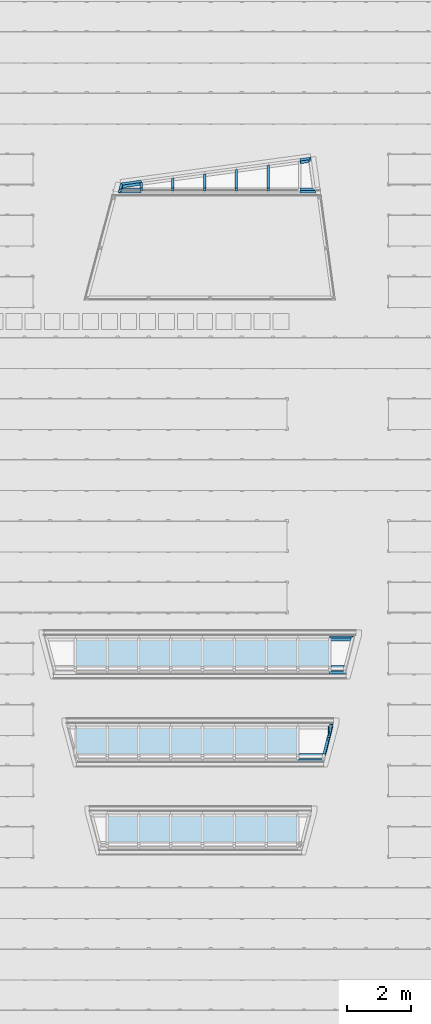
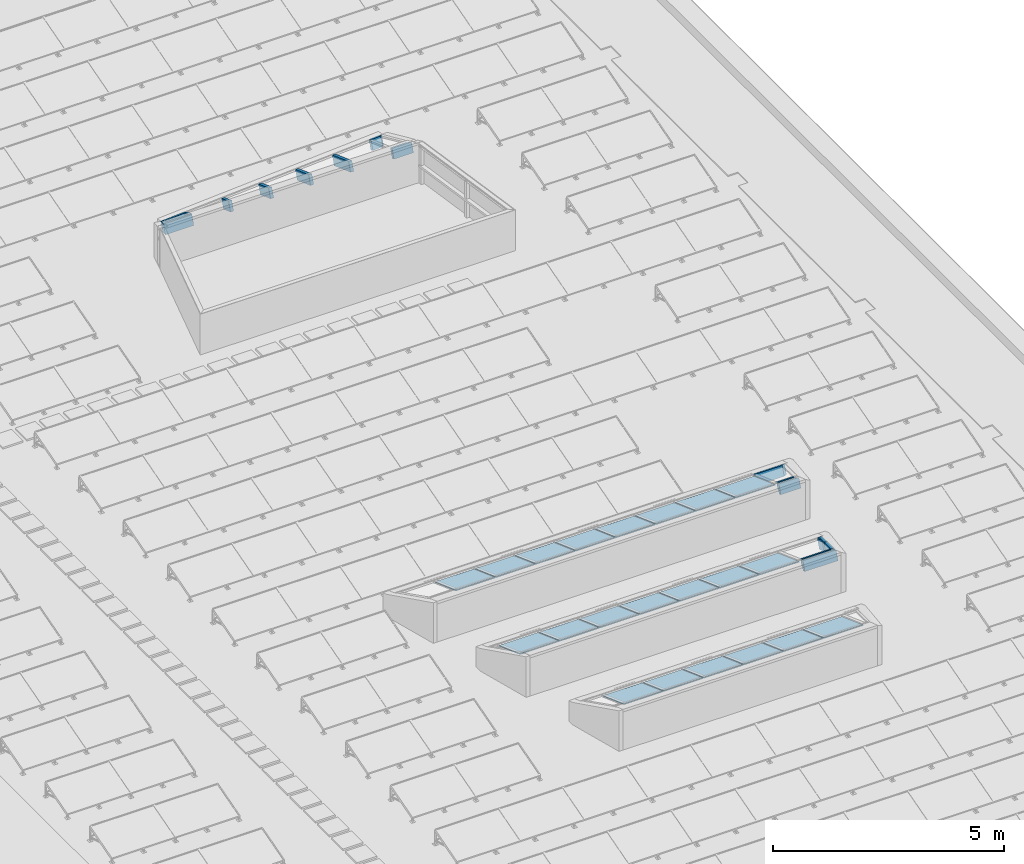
# One storey, part 4 of 20: 21 plates, 19 members, 4 elements without a shape of their own.
"""IFC2X3 building model written with IfcOpenShell, lengths in millimetres."""

from ifc_helpers import new_model, entity, si_unit, converted_unit, derived_unit, money_unit, direction, frame, origin_with_axes, place, context, subcontext, project, spatial, faceted_brep, source, transform, mapped, material, type_object, type_shapes, element, aggregate, save


model = new_model("IFC2X3")

# Units and contexts
model_context = context("Model", 3, precision=0.01, world=origin_with_axes(), true_north=direction((0.0, 1.0)))
plan_context = context("Plan", 3, precision=0.01, world=origin_with_axes(), true_north=direction((0.0, 1.0)))
body_context = subcontext(model_context, "Body", "Model", "MODEL_VIEW")
ifc_project = project(units=[si_unit("LENGTHUNIT", "METRE", prefix="MILLI"), si_unit("AREAUNIT", "SQUARE_METRE"), si_unit("VOLUMEUNIT", "CUBIC_METRE"), converted_unit("PLANEANGLEUNIT", "DEGREE", entity("IfcPlaneAngleMeasure", 0.0174532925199), si_unit("PLANEANGLEUNIT", "RADIAN"), dimensions=[0, 0, 0, 0, 0, 0, 0]), si_unit("SOLIDANGLEUNIT", "STERADIAN"), money_unit("EUR"), converted_unit("TIMEUNIT", "Year", entity("IfcTimeMeasure", 31556926.0), si_unit("TIMEUNIT", "SECOND"), dimensions=[0, 0, 1, 0, 0, 0, 0]), si_unit("MASSUNIT", "GRAM", prefix="KILO"), si_unit("THERMODYNAMICTEMPERATUREUNIT", "DEGREE_CELSIUS"), si_unit("LUMINOUSINTENSITYUNIT", "LUMEN"), si_unit("ENERGYUNIT", "JOULE", prefix="MEGA"), derived_unit("THERMALCONDUCTANCEUNIT", [(si_unit("POWERUNIT", "WATT"), 1), (si_unit("LENGTHUNIT", "METRE"), -1), (si_unit("THERMODYNAMICTEMPERATUREUNIT", "KELVIN"), -1)]), derived_unit("SPECIFICHEATCAPACITYUNIT", [(si_unit("ENERGYUNIT", "JOULE"), 1), (si_unit("MASSUNIT", "GRAM", prefix="KILO"), -1), (si_unit("THERMODYNAMICTEMPERATUREUNIT", "KELVIN"), -1)]), derived_unit("MASSDENSITYUNIT", [(si_unit("MASSUNIT", "GRAM", prefix="KILO"), 1), (si_unit("VOLUMEUNIT", "CUBIC_METRE"), -1)])], contexts=[model_context, plan_context])

# Site, building, storey
site_placement = place(None, origin_with_axes())
site = spatial("IfcSite", under=ifc_project, at=site_placement, Name="Site", CompositionType="ELEMENT")
building_placement = place(site_placement, origin_with_axes())
building = spatial("IfcBuilding", under=site, at=building_placement, Name="Naam gebouw", CompositionType="ELEMENT")
storey_placement = place(building_placement, frame((0.0, 0.0, 7920.0), z_axis=(0.0, 0.0, 1.0), x_axis=(1.0, 0.0, 0.0)))
storey = spatial("IfcBuildingStorey", under=building, at=storey_placement, Name="2e verdieping", CompositionType="ELEMENT", Elevation=7920.0)

# Curtain wall, members
curtain_wall_type = type_object("IfcCurtainWallType", Name="Curtain Wall Type", PredefinedType="NOTDEFINED")
curtain_wall_1_placement = place(storey_placement, frame((19106.1234546, 39361.8774302, 819.822664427), z_axis=(0.0, 0.0, 1.0), x_axis=(1.0, 0.0, 0.0)))
curtain_wall_1 = element("IfcCurtainWall", 1, at=curtain_wall_1_placement, inside=storey, type_object=curtain_wall_type, Name="21_Vliesgevel_Wand-x")
ifc_material_1 = material(Name="Metaal - Staal AFW")
member_type_1 = type_object("IfcMemberType", Name="Boundary Frame 80 x 250", PredefinedType="MULLION")
member_1_placement = place(curtain_wall_1_placement, frame((-4208.50778447, -399.781761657, 382.086908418), z_axis=(0.244168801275, 0.911250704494, -0.33166813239), x_axis=(0.969732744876, -0.229443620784, 0.0835106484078)))
member_1 = element("IfcMember", 2, at=member_1_placement, type_object=member_type_1, material=ifc_material_1, Name="_Vliesgevel - kader_Kader-x", ObjectType="MULLION", context=body_context, shape_type="Brep", body=[
    faceted_brep([(80.0, -50.0, 102.640139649), (80.0, 200.0, 102.640139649), (80.0, 200.0, 207.793038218), (80.0, -50.0, 207.793038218), (0.0, -50.0, 0.0), (0.0, 200.0, 0.0), (0.0, 200.0, 261.414802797), (0.0, -50.0, 261.414802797)], [[[0, 1, 2, 3]], [[1, 0, 4, 5]], [[1, 5, 6, 2]], [[2, 6, 7, 3]], [[4, 0, 3, 7]], [[5, 4, 7, 6]]]),
])
member_2_placement = place(curtain_wall_1_placement, frame((-3500.0, -399.78176001, 382.086907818), z_axis=(-1.0, -2.32413618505e-09, 8.4591577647e-10), x_axis=(-2.4732938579e-09, 0.939692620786, -0.342020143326)))
member_2 = element("IfcMember", 3, at=member_2_placement, type_object=member_type_1, material=ifc_material_1, Name="_Vliesgevel - kader_Kader-x", ObjectType="MULLION", context=body_context, shape_type="Brep", body=[
    faceted_brep([(80.0, 200.0, -4.30823376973e-07), (80.0000001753, 200.000000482, 605.867644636), (80.0000001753, -49.9999995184, 605.867644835), (80.0, -50.0, -2.32100560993e-07), (0.0, 200.0, -4.07679223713e-07), (2.04984473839e-07, 200.000000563, 708.507784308), (2.04984473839e-07, -49.9999994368, 708.507784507), (0.0, -50.0, -2.08952855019e-07)], [[[0, 1, 2, 3]], [[4, 5, 1, 0]], [[1, 5, 6, 2]], [[3, 2, 6, 7]], [[0, 3, 7, 4]], [[7, 6, 5, 4]]]),
])
member_3_placement = place(curtain_wall_1_placement, frame((1989.59808319, -399.781747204, 382.086903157), z_axis=(-1.0, -3.33432482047e-08, 1.21359525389e-08), x_axis=(-3.54831445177e-08, 0.939692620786, -0.342020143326)))
member_3 = element("IfcMember", 4, at=member_3_placement, type_object=member_type_1, material=ifc_material_1, Name="_Vliesgevel - kader_Kader-x", ObjectType="MULLION", context=body_context, shape_type="Brep", body=[
    faceted_brep([(80.000000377, -49.9999989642, 90.8269551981), (80.000000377, 200.000001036, 90.8269523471), (80.0000020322, 200.000005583, 489.598081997), (80.0000020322, -49.9999944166, 489.598084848), (0.0, -50.0, 5.7020344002e-07), (0.0, 200.0, -2.28081731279e-06), (2.03219485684e-06, 200.000005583, 489.598082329), (2.03219485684e-06, -49.9999944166, 489.59808518)], [[[0, 1, 2, 3]], [[1, 0, 4, 5]], [[1, 5, 6, 2]], [[2, 6, 7, 3]], [[4, 0, 3, 7]], [[5, 4, 7, 6]]]),
])
member_4_placement = place(curtain_wall_1_placement, frame((-4144.67844543, -161.567338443, 295.383948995), z_axis=(0.989772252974, 0.134053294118, -0.0487914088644), x_axis=(0.142656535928, -0.930081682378, 0.338522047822)))
member_4 = element("IfcMember", 5, at=member_4_placement, type_object=member_type_1, material=ifc_material_1, Name="_Vliesgevel - kader_Kader-x", ObjectType="MULLION", context=body_context, shape_type="Brep", body=[
    faceted_brep([(80.0, -50.0, 53.6217645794), (80.0, 200.0, 53.6217645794), (80.0, 200.0, 651.340188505), (80.0, -50.0, 651.340188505), (0.0, -50.0, 0.0), (0.0, 200.0, 0.0), (0.0, 200.0, 651.340188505), (0.0, -50.0, 651.340188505)], [[[0, 1, 2, 3]], [[1, 0, 4, 5]], [[1, 5, 6, 2]], [[2, 6, 7, 3]], [[4, 0, 3, 7]], [[5, 4, 7, 6]]]),
])
member_5_placement = place(curtain_wall_1_placement, frame((1500.0, 602.939604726, 17.1261777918), z_axis=(0.989772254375, 0.134053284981, -0.0487914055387), x_axis=(0.142656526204, -0.930081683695, 0.338522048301)))
member_5 = element("IfcMember", 6, at=member_5_placement, type_object=member_type_1, material=ifc_material_1, Name="_Vliesgevel - kader_Kader-x", ObjectType="MULLION", context=body_context, shape_type="Brep", body=[
    faceted_brep([(80.0, 200.0, -2.8269937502e-06), (80.0, 200.0, 269.672609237), (80.0, -50.0, 269.672609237), (80.0, -50.0, -2.8269937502e-06), (0.0, 200.0, -2.82699019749e-06), (0.0, 200.0, 351.008080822), (0.0, -50.0, 351.008080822), (0.0, -50.0, -2.82699019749e-06)], [[[0, 1, 2, 3]], [[4, 5, 1, 0]], [[1, 5, 6, 2]], [[3, 2, 6, 7]], [[0, 3, 7, 4]], [[7, 6, 5, 4]]]),
])

curtain_wall_2_placement = place(storey_placement, frame((13117.0960946, 24464.1241022, 780.165825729), z_axis=(0.0, 0.0, 1.0), x_axis=(1.0, 0.0, 0.0)))
curtain_wall_2 = element("IfcCurtainWall", 7, at=curtain_wall_2_placement, inside=storey, type_object=curtain_wall_type, Name="21_Vliesgevel_Wand-x")
member_6_placement = place(curtain_wall_2_placement, frame((8922.63339509, -628.292672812, 404.355362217), z_axis=(-1.0, 9.97992120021e-08, -3.63239412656e-08), x_axis=(1.06204102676e-07, 0.939692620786, -0.342020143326)))
member_6 = element("IfcMember", 8, at=member_6_placement, type_object=member_type_1, material=ifc_material_1, Name="_Vliesgevel - kader_Kader-x", ObjectType="MULLION", context=body_context, shape_type="Brep", body=[
    faceted_brep([(79.9999992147, -50.0000021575, 63.2094891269), (79.9999992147, 199.999997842, 63.2094976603), (79.9999937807, 199.999982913, 500.604674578), (79.9999937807, -50.0000170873, 500.604666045), (0.0, -50.0, -1.70666680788e-06), (0.0, 200.0, 6.82667078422e-06), (-6.2192739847e-06, 199.999982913, 500.604673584), (-6.21927753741e-06, -50.0000170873, 500.604665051)], [[[0, 1, 2, 3]], [[1, 0, 4, 5]], [[1, 5, 6, 2]], [[2, 6, 7, 3]], [[4, 0, 3, 7]], [[5, 4, 7, 6]]]),
])
member_7_placement = place(curtain_wall_2_placement, frame((8422.02873258, 482.664564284, -3.62852503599e-06), z_axis=(1.0, 0.0, 0.0), x_axis=(0.0, -0.939692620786, 0.342020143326)))
member_7 = element("IfcMember", 9, at=member_7_placement, type_object=member_type_1, material=ifc_material_1, Name="_Vliesgevel - kader_Kader-x", ObjectType="MULLION", context=body_context, shape_type="Brep", body=[
    faceted_brep([(80.0, 200.0, -1.1346834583e-06), (80.0, 200.0, 680.443326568), (80.0, -50.0, 680.443326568), (80.0, -50.0, -1.1346834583e-06), (0.0, 200.0, -1.1346834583e-06), (0.0, 200.0, 781.693898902), (0.0, -50.0, 781.693898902), (0.0, -50.0, -1.1346834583e-06)], [[[0, 1, 2, 3]], [[4, 5, 1, 0]], [[1, 5, 6, 2]], [[3, 2, 6, 7]], [[0, 3, 7, 4]], [[7, 6, 5, 4]]]),
])

curtain_wall_3_placement = place(storey_placement, frame((20039.1248272, 21694.0652432, 780.165825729), z_axis=(0.0, 0.0, 1.0), x_axis=(1.0, 0.0, 0.0)))
curtain_wall_3 = element("IfcCurtainWall", 10, at=curtain_wall_3_placement, inside=storey, type_object=curtain_wall_type, Name="21_Vliesgevel_Wand-x")
member_8_placement = place(curtain_wall_3_placement, frame((1330.20373771, -628.292633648, 404.355346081), z_axis=(-1.0, 6.77914371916e-09, -2.46740620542e-09), x_axis=(7.21421395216e-09, 0.939692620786, -0.342020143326)))
member_8 = element("IfcMember", 11, at=member_8_placement, type_object=member_type_1, material=ifc_material_1, Name="_Vliesgevel - kader_Kader-x", ObjectType="MULLION", context=body_context, shape_type="Brep", body=[
    faceted_brep([(79.9999999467, -50.0000001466, 63.2095078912), (79.9999999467, 199.999999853, 63.2095084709), (79.9999992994, 199.999998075, 830.20373853), (79.9999992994, -50.0000019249, 830.203737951), (0.0, -50.0, -1.15928600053e-07), (0.0, 200.0, 4.63725058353e-07), (-7.00616453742e-07, 199.999998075, 830.203738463), (-7.00616453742e-07, -50.0000019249, 830.203737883)], [[[0, 1, 2, 3]], [[1, 0, 4, 5]], [[1, 5, 6, 2]], [[2, 6, 7, 3]], [[4, 0, 3, 7]], [[5, 4, 7, 6]]]),
])
member_9_placement = place(curtain_wall_3_placement, frame((1500.0, 42.7979624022, 160.098344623), z_axis=(-0.231308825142, -0.914208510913, 0.332744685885), x_axis=(-0.972880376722, 0.217359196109, -0.0791122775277)))
member_9 = element("IfcMember", 12, at=member_9_placement, type_object=member_type_1, material=ifc_material_1, Name="_Vliesgevel - kader_Kader-x", ObjectType="MULLION", context=body_context, shape_type="Brep", body=[
    faceted_brep([(80.0, 200.0, -1.12280673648e-05), (80.0, 200.0, 574.773199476), (80.0, -50.0, 574.773199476), (80.0, -50.0, -1.12280709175e-05), (0.0, 200.0, -1.12280709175e-05), (0.0, 200.0, 574.773199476), (0.0, -50.0, 574.773199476), (0.0, -50.0, -1.12280673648e-05)], [[[0, 1, 2, 3]], [[4, 5, 1, 0]], [[1, 5, 6, 2]], [[3, 2, 6, 7]], [[0, 3, 7, 4]], [[7, 6, 5, 4]]]),
])
member_10_placement = place(curtain_wall_3_placement, frame((1611.29288076, 482.664559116, -3.62852503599e-06), z_axis=(-0.231308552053, -0.914208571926, 0.332744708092), x_axis=(-0.972880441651, 0.217358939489, -0.0791121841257)))
member_10 = element("IfcMember", 13, at=member_10_placement, type_object=member_type_1, material=ifc_material_1, Name="_Vliesgevel - kader_Kader-x", ObjectType="MULLION", context=body_context, shape_type="Brep", body=[
    faceted_brep([(80.0, -50.0, 101.250554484), (80.0, 200.0, 101.250554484), (80.0, 200.0, 481.144697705), (80.0, -50.0, 481.144697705), (0.0, -50.0, 0.0), (0.0, 200.0, 0.0), (0.0, 200.0, 481.144697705), (0.0, -50.0, 481.144697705)], [[[0, 1, 2, 3]], [[1, 0, 4, 5]], [[1, 5, 6, 2]], [[2, 6, 7, 3]], [[4, 0, 3, 7]], [[5, 4, 7, 6]]]),
])
member_11_placement = place(curtain_wall_3_placement, frame((1500.0, 482.664559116, -3.62852503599e-06), z_axis=(1.0, 0.0, 0.0), x_axis=(0.0, -0.939692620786, 0.342020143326)))
member_11 = element("IfcMember", 14, at=member_11_placement, type_object=member_type_1, material=ifc_material_1, Name="_Vliesgevel - kader_Kader-x", ObjectType="MULLION", context=body_context, shape_type="Brep", body=[
    faceted_brep([(80.0, 200.0, -1.1346834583e-06), (80.0, 200.0, 10.0423262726), (80.0, -50.0, 10.0423262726), (80.0, -50.0, -1.1346834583e-06), (0.0, 200.0, -1.1346834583e-06), (0.0, 200.0, 111.292880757), (0.0, -50.0, 111.292880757), (0.0, -50.0, -1.1346834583e-06)], [[[0, 1, 2, 3]], [[4, 5, 1, 0]], [[1, 5, 6, 2]], [[3, 2, 6, 7]], [[0, 3, 7, 4]], [[7, 6, 5, 4]]]),
])

# Member
member_type_2 = type_object("IfcMemberType", Name="Mullion Frame 80 x 250", PredefinedType="MULLION")
member_12_placement = place(curtain_wall_1_placement, frame((-3500.0, -74.2530406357, 263.604143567), z_axis=(0.0, -0.939692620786, 0.342020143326), x_axis=(-1.0, 0.0, 0.0)))
member_12 = element("IfcMember", 15, at=member_12_placement, type_object=member_type_2, material=ifc_material_1, Name="_Vliesgevel - kader_Kader-x", ObjectType="MULLION", context=body_context, shape_type="Brep", body=[
    faceted_brep([(40.0, -50.0, 86.5919009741), (40.0, 200.0, 86.5919009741), (40.0, 200.0, 266.420426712), (40.0, -50.0, 266.420427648), (-40.0, -50.0, 75.0614483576), (-40.0, 200.0, 75.0614483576), (-40.0, 200.0, 266.420426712), (-40.0, -50.0, 266.420427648)], [[[0, 1, 2, 3]], [[1, 0, 4, 5]], [[1, 5, 6, 2]], [[2, 6, 7, 3]], [[4, 0, 3, 7]], [[5, 4, 7, 6]]]),
])

member_13_placement = place(curtain_wall_1_placement, frame((-2500.0, 61.1854748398, 214.308555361), z_axis=(0.0, -0.939692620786, 0.342020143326), x_axis=(-1.0, 0.0, 0.0)))
member_13 = element("IfcMember", 16, at=member_13_placement, type_object=member_type_2, material=ifc_material_1, Name="_Vliesgevel - kader_Kader-x", ObjectType="MULLION", context=body_context, shape_type="Brep", body=[
    faceted_brep([(40.0, -50.0, 86.5919009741), (40.0, 200.0, 86.5919009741), (40.0, 200.0, 410.551088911), (40.0, -50.0, 410.551088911), (-40.0, -50.0, 75.0614483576), (-40.0, 200.0, 75.0614483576), (-40.0, 200.0, 410.551088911), (-40.0, -50.0, 410.551088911)], [[[0, 1, 2, 3]], [[1, 0, 4, 5]], [[1, 5, 6, 2]], [[2, 6, 7, 3]], [[4, 0, 3, 7]], [[5, 4, 7, 6]]]),
])

member_14_placement = place(curtain_wall_1_placement, frame((-1500.0, 196.623990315, 165.012967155), z_axis=(0.0, -0.939692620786, 0.342020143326), x_axis=(-1.0, 0.0, 0.0)))
member_14 = element("IfcMember", 17, at=member_14_placement, type_object=member_type_2, material=ifc_material_1, Name="_Vliesgevel - kader_Kader-x", ObjectType="MULLION", context=body_context, shape_type="Brep", body=[
    faceted_brep([(40.0, -50.0, 86.5919009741), (40.0, 200.0, 86.5919009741), (40.0, 200.0, 554.681746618), (40.0, -50.0, 554.681746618), (-40.0, -50.0, 75.0614483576), (-40.0, 200.0, 75.0614483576), (-40.0, 200.0, 554.681746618), (-40.0, -50.0, 554.681746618)], [[[0, 1, 2, 3]], [[1, 0, 4, 5]], [[1, 5, 6, 2]], [[2, 6, 7, 3]], [[4, 0, 3, 7]], [[5, 4, 7, 6]]]),
])

member_15_placement = place(curtain_wall_1_placement, frame((-500.0, 332.062505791, 115.717378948), z_axis=(0.0, -0.939692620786, 0.342020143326), x_axis=(-1.0, 0.0, 0.0)))
member_15 = element("IfcMember", 18, at=member_15_placement, type_object=member_type_2, material=ifc_material_1, Name="_Vliesgevel - kader_Kader-x", ObjectType="MULLION", context=body_context, shape_type="Brep", body=[
    faceted_brep([(40.0, -50.0, 86.5919009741), (40.0, 200.0, 86.5919009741), (40.0, 200.0, 698.812404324), (40.0, -50.0, 698.812404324), (-40.0, -50.0, 75.0614483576), (-40.0, 200.0, 75.0614483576), (-40.0, 200.0, 698.812404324), (-40.0, -50.0, 698.812404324)], [[[0, 1, 2, 3]], [[1, 0, 4, 5]], [[1, 5, 6, 2]], [[2, 6, 7, 3]], [[4, 0, 3, 7]], [[5, 4, 7, 6]]]),
])

member_16_placement = place(curtain_wall_1_placement, frame((500.0, 467.501021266, 66.4217907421), z_axis=(0.0, -0.939692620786, 0.342020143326), x_axis=(-1.0, 0.0, 0.0)))
member_16 = element("IfcMember", 19, at=member_16_placement, type_object=member_type_2, material=ifc_material_1, Name="_Vliesgevel - kader_Kader-x", ObjectType="MULLION", context=body_context, shape_type="Brep", body=[
    faceted_brep([(40.0, -50.0, 86.5919046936), (40.0, 200.0, 86.5919046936), (40.0, 200.0, 842.94306203), (40.0, -50.0, 842.94306203), (-40.0, -50.0, 75.0614462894), (-40.0, 200.0, 75.0614462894), (-40.0, 200.0, 842.94306203), (-40.0, -50.0, 842.94306203)], [[[0, 1, 2, 3]], [[1, 0, 4, 5]], [[1, 5, 6, 2]], [[2, 6, 7, 3]], [[4, 0, 3, 7]], [[5, 4, 7, 6]]]),
])

aggregate(curtain_wall_1, [member_1, member_2, member_12, member_13, member_14, member_15, member_16, member_3, member_4, member_5])

member_17_placement = place(curtain_wall_3_placement, frame((1500.0, 482.664559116, -3.62852503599e-06), z_axis=(0.0, -0.939692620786, 0.342020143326), x_axis=(-1.0, 0.0, 0.0)))
member_17 = element("IfcMember", 20, at=member_17_placement, type_object=member_type_2, material=ifc_material_1, Name="_Vliesgevel - kader_Kader-x", ObjectType="MULLION", context=body_context, shape_type="Brep", body=[
    faceted_brep([(40.0, -50.0, 79.9999985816), (40.0, 200.0, 80.0000056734), (40.0, 200.0, 290.47750272), (40.0, -50.0, 290.47750272), (-10.0424362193, -50.0, 79.9999985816), (-10.0424345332, 200.0, 80.0000056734)], [[[0, 1, 2, 3]], [[1, 0, 4, 5]], [[1, 5, 2]], [[5, 4, 3, 2]], [[4, 0, 3]]]),
])

member_type_3 = type_object("IfcMemberType", Name="Transom Frame 70 x 175", PredefinedType="MULLION")
member_18_placement = place(curtain_wall_2_placement, frame((8422.02873258, -482.664580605, 351.351071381), z_axis=(1.0, 0.0, 0.0), x_axis=(0.0, -0.939692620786, 0.342020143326)))
member_18 = element("IfcMember", 21, at=member_18_placement, type_object=member_type_3, material=ifc_material_1, Name="_Vliesgevel - kader_Kader-x", ObjectType="MULLION", context=body_context, shape_type="Brep", body=[
    faceted_brep([(35.0, -50.0, 40.0), (35.0, 125.0, 40.0), (35.0, 125.0, 446.899358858), (35.0, -50.0, 446.899358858), (-35.0, -50.0, 40.0), (-35.0, 125.0, 40.0), (-35.0, 125.0, 463.542319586), (-35.0, -50.0, 463.542319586)], [[[0, 1, 2, 3]], [[1, 0, 4, 5]], [[1, 5, 6, 2]], [[2, 6, 7, 3]], [[4, 0, 3, 7]], [[5, 4, 7, 6]]]),
])

member_19_placement = place(curtain_wall_3_placement, frame((500.0, -482.664585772, 351.351071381), z_axis=(1.0, 0.0, 0.0), x_axis=(0.0, -0.939692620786, 0.342020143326)))
member_19 = element("IfcMember", 22, at=member_19_placement, type_object=member_type_3, material=ifc_material_1, Name="_Vliesgevel - kader_Kader-x", ObjectType="MULLION", context=body_context, shape_type="Brep", body=[
    faceted_brep([(35.0, -50.0, 40.0), (35.0, 125.0, 40.0), (35.0, 125.0, 776.498354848), (35.0, -50.0, 776.498354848), (-35.0, -50.0, 40.0), (-35.0, 125.0, 40.0), (-35.0, 125.0, 793.141323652), (-35.0, -50.0, 793.141323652)], [[[0, 1, 2, 3]], [[1, 0, 4, 5]], [[1, 5, 6, 2]], [[2, 6, 7, 3]], [[4, 0, 3, 7]], [[5, 4, 7, 6]]]),
])

# Plate
ifc_material_2 = material(Name="Glas")
plate_type = type_object("IfcPlateType", Name="Main Panel 980 x 972 x 20", PredefinedType="CURTAIN_PANEL")
shared_shape_1 = source(origin_with_axes(), body_context, "Body", "Brep", [
    faceted_brep([(-990.000003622, 1494.99999774, -10.0), (-990.000003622, 1494.99999774, 10.0), (-10.0000045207, 1494.99999774, 10.0), (-10.0000045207, 1494.99999774, -10.0), (-990.000003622, 522.718159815, -10.0), (-990.000003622, 522.718159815, 10.0), (-10.0000045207, 522.718159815, 10.0), (-10.0000045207, 522.718159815, -10.0)], [[[0, 1, 2, 3]], [[4, 5, 1, 0]], [[1, 5, 6, 2]], [[3, 2, 6, 7]], [[0, 3, 7, 4]], [[7, 6, 5, 4]]]),
])
plate_1_placement = place(curtain_wall_2_placement, frame((922.028732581, 5.16740428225e-06, 175.675529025), z_axis=(0.0, 0.0, 1.0), x_axis=(-1.0, 0.0, 0.0)))
plate_1 = element("IfcPlate", 23, at=plate_1_placement, type_object=plate_type, material=ifc_material_2, Name="_Vliesgevel - paneel_Paneel-x", ObjectType="CURTAIN_PANEL", context=body_context, shape_type="MappedRepresentation", body=[
    mapped(shared_shape_1, transform((500.0, -926.874345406, -337.354672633), x_axis=(1.0, 0.0, 0.0), y_axis=(0.0, 0.939692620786, 0.342020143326), z_axis=(0.0, -0.342020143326, 0.939692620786))),
])

plate_2_placement = place(curtain_wall_2_placement, frame((1922.02873258, 5.16740428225e-06, 175.675529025), z_axis=(0.0, 0.0, 1.0), x_axis=(-1.0, 0.0, 0.0)))
plate_2 = element("IfcPlate", 24, at=plate_2_placement, type_object=plate_type, material=ifc_material_2, Name="_Vliesgevel - paneel_Paneel-x", ObjectType="CURTAIN_PANEL", context=body_context, shape_type="MappedRepresentation", body=[
    mapped(shared_shape_1, transform((500.0, -926.874345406, -337.354672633), x_axis=(1.0, 0.0, 0.0), y_axis=(0.0, 0.939692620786, 0.342020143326), z_axis=(0.0, -0.342020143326, 0.939692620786))),
])

plate_3_placement = place(curtain_wall_2_placement, frame((2922.02873258, 5.16740428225e-06, 175.675529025), z_axis=(0.0, 0.0, 1.0), x_axis=(-1.0, 0.0, 0.0)))
plate_3 = element("IfcPlate", 25, at=plate_3_placement, type_object=plate_type, material=ifc_material_2, Name="_Vliesgevel - paneel_Paneel-x", ObjectType="CURTAIN_PANEL", context=body_context, shape_type="MappedRepresentation", body=[
    mapped(shared_shape_1, transform((500.0, -926.874345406, -337.354672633), x_axis=(1.0, 0.0, 0.0), y_axis=(0.0, 0.939692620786, 0.342020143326), z_axis=(0.0, -0.342020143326, 0.939692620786))),
])

plate_4_placement = place(curtain_wall_2_placement, frame((7922.02873258, -1.49668366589e-06, 175.67553145), z_axis=(0.0, 0.0, 1.0), x_axis=(-1.0, 0.0, 0.0)))
plate_4 = element("IfcPlate", 26, at=plate_4_placement, type_object=plate_type, material=ifc_material_2, Name="_Vliesgevel - paneel_Paneel-x", ObjectType="CURTAIN_PANEL", context=body_context, shape_type="MappedRepresentation", body=[
    mapped(shared_shape_1, transform((500.0, -926.87435207, -337.354675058), x_axis=(1.0, 0.0, 0.0), y_axis=(0.0, 0.939692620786, 0.342020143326), z_axis=(0.0, -0.342020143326, 0.939692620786))),
])

plate_5_placement = place(curtain_wall_2_placement, frame((6922.02873258, 5.16740428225e-06, 175.675529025), z_axis=(0.0, 0.0, 1.0), x_axis=(-1.0, 0.0, 0.0)))
plate_5 = element("IfcPlate", 27, at=plate_5_placement, type_object=plate_type, material=ifc_material_2, Name="_Vliesgevel - paneel_Paneel-x", ObjectType="CURTAIN_PANEL", context=body_context, shape_type="MappedRepresentation", body=[
    mapped(shared_shape_1, transform((500.0, -926.874345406, -337.354672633), x_axis=(1.0, 0.0, 0.0), y_axis=(0.0, 0.939692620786, 0.342020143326), z_axis=(0.0, -0.342020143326, 0.939692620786))),
])

plate_6_placement = place(curtain_wall_2_placement, frame((5922.02873258, 5.16740428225e-06, 175.675529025), z_axis=(0.0, 0.0, 1.0), x_axis=(-1.0, 0.0, 0.0)))
plate_6 = element("IfcPlate", 28, at=plate_6_placement, type_object=plate_type, material=ifc_material_2, Name="_Vliesgevel - paneel_Paneel-x", ObjectType="CURTAIN_PANEL", context=body_context, shape_type="MappedRepresentation", body=[
    mapped(shared_shape_1, transform((500.0, -926.874345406, -337.354672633), x_axis=(1.0, 0.0, 0.0), y_axis=(0.0, 0.939692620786, 0.342020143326), z_axis=(0.0, -0.342020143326, 0.939692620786))),
])

plate_7_placement = place(curtain_wall_2_placement, frame((4922.02873258, 5.16740428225e-06, 175.675529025), z_axis=(0.0, 0.0, 1.0), x_axis=(-1.0, 0.0, 0.0)))
plate_7 = element("IfcPlate", 29, at=plate_7_placement, type_object=plate_type, material=ifc_material_2, Name="_Vliesgevel - paneel_Paneel-x", ObjectType="CURTAIN_PANEL", context=body_context, shape_type="MappedRepresentation", body=[
    mapped(shared_shape_1, transform((500.0, -926.874345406, -337.354672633), x_axis=(1.0, 0.0, 0.0), y_axis=(0.0, 0.939692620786, 0.342020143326), z_axis=(0.0, -0.342020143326, 0.939692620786))),
])

plate_8_placement = place(curtain_wall_3_placement, frame((0.0, 0.0, 175.675529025), z_axis=(0.0, 0.0, 1.0), x_axis=(-1.0, 0.0, 0.0)))
plate_8 = element("IfcPlate", 30, at=plate_8_placement, type_object=plate_type, material=ifc_material_2, Name="_Vliesgevel - paneel_Paneel-x", ObjectType="CURTAIN_PANEL", context=body_context, shape_type="MappedRepresentation", body=[
    mapped(shared_shape_1, transform((500.0, -926.874345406, -337.354672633), x_axis=(1.0, 0.0, 0.0), y_axis=(0.0, 0.939692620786, 0.342020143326), z_axis=(0.0, -0.342020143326, 0.939692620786))),
])

plate_9_placement = place(curtain_wall_3_placement, frame((-4000.0, 0.0, 175.675529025), z_axis=(0.0, 0.0, 1.0), x_axis=(-1.0, 0.0, 0.0)))
plate_9 = element("IfcPlate", 31, at=plate_9_placement, type_object=plate_type, material=ifc_material_2, Name="_Vliesgevel - paneel_Paneel-x", ObjectType="CURTAIN_PANEL", context=body_context, shape_type="MappedRepresentation", body=[
    mapped(shared_shape_1, transform((500.0, -926.874345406, -337.354672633), x_axis=(1.0, 0.0, 0.0), y_axis=(0.0, 0.939692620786, 0.342020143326), z_axis=(0.0, -0.342020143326, 0.939692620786))),
])

plate_10_placement = place(curtain_wall_3_placement, frame((-5000.0, 0.0, 175.675529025), z_axis=(0.0, 0.0, 1.0), x_axis=(-1.0, 0.0, 0.0)))
plate_10 = element("IfcPlate", 32, at=plate_10_placement, type_object=plate_type, material=ifc_material_2, Name="_Vliesgevel - paneel_Paneel-x", ObjectType="CURTAIN_PANEL", context=body_context, shape_type="MappedRepresentation", body=[
    mapped(shared_shape_1, transform((500.0, -926.874345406, -337.354672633), x_axis=(1.0, 0.0, 0.0), y_axis=(0.0, 0.939692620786, 0.342020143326), z_axis=(0.0, -0.342020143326, 0.939692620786))),
])

plate_11_placement = place(curtain_wall_3_placement, frame((-6000.0, 0.0, 175.675529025), z_axis=(0.0, 0.0, 1.0), x_axis=(-1.0, 0.0, 0.0)))
plate_11 = element("IfcPlate", 33, at=plate_11_placement, type_object=plate_type, material=ifc_material_2, Name="_Vliesgevel - paneel_Paneel-x", ObjectType="CURTAIN_PANEL", context=body_context, shape_type="MappedRepresentation", body=[
    mapped(shared_shape_1, transform((500.0, -926.874345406, -337.354672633), x_axis=(1.0, 0.0, 0.0), y_axis=(0.0, 0.939692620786, 0.342020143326), z_axis=(0.0, -0.342020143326, 0.939692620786))),
])

plate_12_placement = place(curtain_wall_3_placement, frame((-2000.0, 0.0, 175.675529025), z_axis=(0.0, 0.0, 1.0), x_axis=(-1.0, 0.0, 0.0)))
plate_12 = element("IfcPlate", 34, at=plate_12_placement, type_object=plate_type, material=ifc_material_2, Name="_Vliesgevel - paneel_Paneel-x", ObjectType="CURTAIN_PANEL", context=body_context, shape_type="MappedRepresentation", body=[
    mapped(shared_shape_1, transform((500.0, -926.874345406, -337.354672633), x_axis=(1.0, 0.0, 0.0), y_axis=(0.0, 0.939692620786, 0.342020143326), z_axis=(0.0, -0.342020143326, 0.939692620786))),
])

plate_13_placement = place(curtain_wall_3_placement, frame((-1000.0, 0.0, 175.675529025), z_axis=(0.0, 0.0, 1.0), x_axis=(-1.0, 0.0, 0.0)))
plate_13 = element("IfcPlate", 35, at=plate_13_placement, type_object=plate_type, material=ifc_material_2, Name="_Vliesgevel - paneel_Paneel-x", ObjectType="CURTAIN_PANEL", context=body_context, shape_type="MappedRepresentation", body=[
    mapped(shared_shape_1, transform((500.0, -926.874345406, -337.354672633), x_axis=(1.0, 0.0, 0.0), y_axis=(0.0, 0.939692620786, 0.342020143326), z_axis=(0.0, -0.342020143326, 0.939692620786))),
])

# Curtain wall, plates
curtain_wall_4_placement = place(storey_placement, frame((20039.1248272, 18928.1634329, 780.165825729), z_axis=(0.0, 0.0, 1.0), x_axis=(1.0, 0.0, 0.0)))
curtain_wall_4 = element("IfcCurtainWall", 36, at=curtain_wall_4_placement, inside=storey, type_object=curtain_wall_type, Name="21_Vliesgevel_Wand-x")
plate_14_placement = place(curtain_wall_4_placement, frame((0.0, 0.0, 175.675529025), z_axis=(0.0, 0.0, 1.0), x_axis=(-1.0, 0.0, 0.0)))
plate_14 = element("IfcPlate", 37, at=plate_14_placement, type_object=plate_type, material=ifc_material_2, Name="_Vliesgevel - paneel_Paneel-x", ObjectType="CURTAIN_PANEL", context=body_context, shape_type="MappedRepresentation", body=[
    mapped(shared_shape_1, transform((500.0, -926.874345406, -337.354672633), x_axis=(1.0, 0.0, 0.0), y_axis=(0.0, 0.939692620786, 0.342020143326), z_axis=(0.0, -0.342020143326, 0.939692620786))),
])
plate_15_placement = place(curtain_wall_4_placement, frame((-4000.0, 0.0, 175.675529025), z_axis=(0.0, 0.0, 1.0), x_axis=(-1.0, 0.0, 0.0)))
plate_15 = element("IfcPlate", 38, at=plate_15_placement, type_object=plate_type, material=ifc_material_2, Name="_Vliesgevel - paneel_Paneel-x", ObjectType="CURTAIN_PANEL", context=body_context, shape_type="MappedRepresentation", body=[
    mapped(shared_shape_1, transform((500.0, -926.874345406, -337.354672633), x_axis=(1.0, 0.0, 0.0), y_axis=(0.0, 0.939692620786, 0.342020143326), z_axis=(0.0, -0.342020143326, 0.939692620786))),
])
plate_16_placement = place(curtain_wall_4_placement, frame((-5000.0, 0.0, 175.675529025), z_axis=(0.0, 0.0, 1.0), x_axis=(-1.0, 0.0, 0.0)))
plate_16 = element("IfcPlate", 39, at=plate_16_placement, type_object=plate_type, material=ifc_material_2, Name="_Vliesgevel - paneel_Paneel-x", ObjectType="CURTAIN_PANEL", context=body_context, shape_type="MappedRepresentation", body=[
    mapped(shared_shape_1, transform((500.0, -926.874345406, -337.354672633), x_axis=(1.0, 0.0, 0.0), y_axis=(0.0, 0.939692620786, 0.342020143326), z_axis=(0.0, -0.342020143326, 0.939692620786))),
])
plate_17_placement = place(curtain_wall_4_placement, frame((-2000.0, 0.0, 175.675529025), z_axis=(0.0, 0.0, 1.0), x_axis=(-1.0, 0.0, 0.0)))
plate_17 = element("IfcPlate", 40, at=plate_17_placement, type_object=plate_type, material=ifc_material_2, Name="_Vliesgevel - paneel_Paneel-x", ObjectType="CURTAIN_PANEL", context=body_context, shape_type="MappedRepresentation", body=[
    mapped(shared_shape_1, transform((500.0, -926.874345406, -337.354672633), x_axis=(1.0, 0.0, 0.0), y_axis=(0.0, 0.939692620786, 0.342020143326), z_axis=(0.0, -0.342020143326, 0.939692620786))),
])
plate_18_placement = place(curtain_wall_4_placement, frame((-1000.0, 0.0, 175.675529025), z_axis=(0.0, 0.0, 1.0), x_axis=(-1.0, 0.0, 0.0)))
plate_18 = element("IfcPlate", 41, at=plate_18_placement, type_object=plate_type, material=ifc_material_2, Name="_Vliesgevel - paneel_Paneel-x", ObjectType="CURTAIN_PANEL", context=body_context, shape_type="MappedRepresentation", body=[
    mapped(shared_shape_1, transform((500.0, -926.874345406, -337.354672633), x_axis=(1.0, 0.0, 0.0), y_axis=(0.0, 0.939692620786, 0.342020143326), z_axis=(0.0, -0.342020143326, 0.939692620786))),
])

# Plate
shared_shape_2 = source(origin_with_axes(), body_context, "Body", "Brep", [
    faceted_brep([(-990.000003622, 1494.99999774, -10.0), (-990.000003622, 1494.99999774, 10.0), (-10.0000045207, 1494.99999774, 10.0), (-10.0000045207, 1494.99999774, -10.0), (-990.000003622, 522.718159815, -10.0), (-990.000003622, 522.718159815, 10.0), (-10.0000045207, 522.718159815, 10.0), (-10.0000045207, 522.718159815, -10.0)], [[[0, 1, 2, 3]], [[4, 5, 1, 0]], [[1, 5, 6, 2]], [[3, 2, 6, 7]], [[0, 3, 7, 4]], [[7, 6, 5, 4]]]),
])
type_shapes(plate_type, [shared_shape_1, shared_shape_2])
plate_19_placement = place(curtain_wall_2_placement, frame((3922.02873258, 5.16740072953e-06, 175.675529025), z_axis=(0.0, 0.0, 1.0), x_axis=(-1.0, 0.0, 0.0)))
plate_19 = element("IfcPlate", 42, at=plate_19_placement, type_object=plate_type, material=ifc_material_2, Name="_Vliesgevel - paneel_Paneel-x", ObjectType="CURTAIN_PANEL", context=body_context, shape_type="MappedRepresentation", body=[
    mapped(shared_shape_2, transform((500.0, -926.874345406, -337.354672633), x_axis=(1.0, 0.0, 0.0), y_axis=(0.0, 0.939692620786, 0.342020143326), z_axis=(0.0, -0.342020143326, 0.939692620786))),
])

aggregate(curtain_wall_2, [plate_1, plate_2, plate_3, plate_19, plate_4, plate_5, plate_6, plate_7, member_6, member_18, member_7])

plate_20_placement = place(curtain_wall_3_placement, frame((-3000.0, 0.0, 175.675529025), z_axis=(0.0, 0.0, 1.0), x_axis=(-1.0, 0.0, 0.0)))
plate_20 = element("IfcPlate", 43, at=plate_20_placement, type_object=plate_type, material=ifc_material_2, Name="_Vliesgevel - paneel_Paneel-x", ObjectType="CURTAIN_PANEL", context=body_context, shape_type="MappedRepresentation", body=[
    mapped(shared_shape_2, transform((500.0, -926.874345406, -337.354672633), x_axis=(1.0, 0.0, 0.0), y_axis=(0.0, 0.939692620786, 0.342020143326), z_axis=(0.0, -0.342020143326, 0.939692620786))),
])

aggregate(curtain_wall_3, [plate_8, plate_20, plate_9, plate_10, plate_11, plate_12, plate_13, member_8, member_19, member_9, member_17, member_10, member_11])

plate_21_placement = place(curtain_wall_4_placement, frame((-3000.0, 0.0, 175.675529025), z_axis=(0.0, 0.0, 1.0), x_axis=(-1.0, 0.0, 0.0)))
plate_21 = element("IfcPlate", 44, at=plate_21_placement, type_object=plate_type, material=ifc_material_2, Name="_Vliesgevel - paneel_Paneel-x", ObjectType="CURTAIN_PANEL", context=body_context, shape_type="MappedRepresentation", body=[
    mapped(shared_shape_2, transform((500.0, -926.874345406, -337.354672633), x_axis=(1.0, 0.0, 0.0), y_axis=(0.0, 0.939692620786, 0.342020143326), z_axis=(0.0, -0.342020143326, 0.939692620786))),
])

aggregate(curtain_wall_4, [plate_14, plate_21, plate_15, plate_16, plate_17, plate_18])

save(model, "model.ifc")
